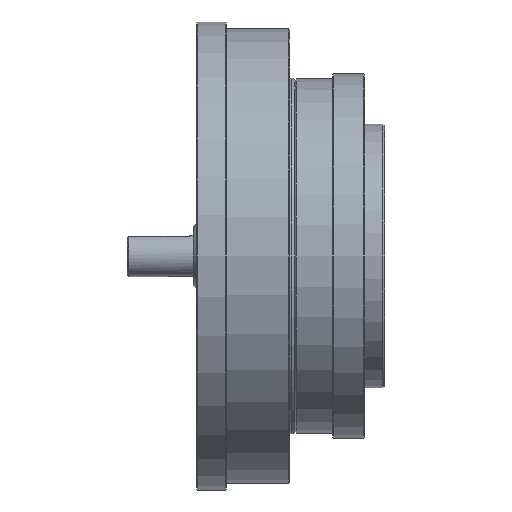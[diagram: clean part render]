
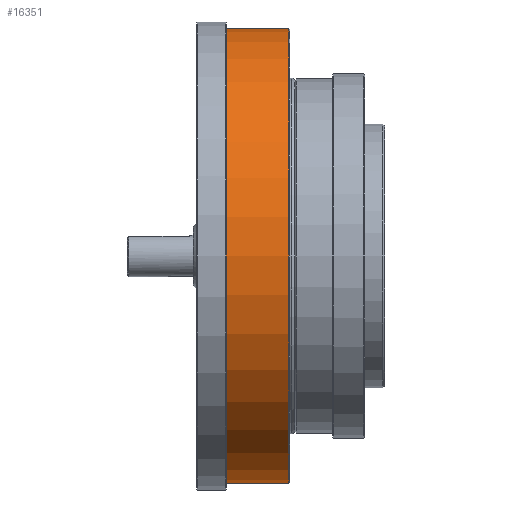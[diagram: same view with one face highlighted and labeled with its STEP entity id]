
A CAD part, front view. The second image highlights one B-rep face of the part: STEP entity #16351.
In plain terms, the highlighted cylindrical face has radius 138 mm (diameter 276 mm), a full revolution.
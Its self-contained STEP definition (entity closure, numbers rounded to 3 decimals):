
#6004 = CARTESIAN_POINT ( 'NONE',  ( -99.85, 0., 138. ) ) ;
#6114 = CIRCLE ( 'NONE', #18344, 138. ) ;
#6236 = CIRCLE ( 'NONE', #17446, 138. ) ;
#8081 = EDGE_CURVE ( 'NONE', #9152, #9152, #6236, .T. ) ;
#8906 = CYLINDRICAL_SURFACE ( 'NONE', #17930, 138. ) ;
#9152 = VERTEX_POINT ( 'NONE', #6004 ) ;
#10480 = EDGE_CURVE ( 'NONE', #21416, #21416, #6114, .T. ) ;
#13930 = CARTESIAN_POINT ( 'NONE',  ( -147., 0., 0. ) ) ;
#13986 = CARTESIAN_POINT ( 'NONE',  ( -99.85, 0., 0. ) ) ;
#14040 = DIRECTION ( 'NONE',  ( -1., 0., 0. ) ) ;
#15018 = CARTESIAN_POINT ( 'NONE',  ( -58., 0., 0. ) ) ;
#16351 = ADVANCED_FACE ( 'NONE', ( #29094, #18034 ), #8906, .T. ) ;
#16521 = DIRECTION ( 'NONE',  ( 0., 0., 1. ) ) ;
#16522 = CARTESIAN_POINT ( 'NONE',  ( -58., 0., -138. ) ) ;
#16580 = DIRECTION ( 'NONE',  ( 0., 0., 1. ) ) ;
#17446 = AXIS2_PLACEMENT_3D ( 'NONE', #13986, #31688, #16521 ) ;
#17584 = DIRECTION ( 'NONE',  ( 0., 0., -1. ) ) ;
#17930 = AXIS2_PLACEMENT_3D ( 'NONE', #13930, #14040, #16580 ) ;
#18034 = FACE_OUTER_BOUND ( 'NONE', #26810, .T. ) ;
#18344 = AXIS2_PLACEMENT_3D ( 'NONE', #15018, #32716, #17584 ) ;
#21416 = VERTEX_POINT ( 'NONE', #16522 ) ;
#25344 = ORIENTED_EDGE ( 'NONE', *, *, #10480, .T. ) ;
#26810 = EDGE_LOOP ( 'NONE', ( #28222 ) ) ;
#26953 = EDGE_LOOP ( 'NONE', ( #25344 ) ) ;
#28222 = ORIENTED_EDGE ( 'NONE', *, *, #8081, .F. ) ;
#29094 = FACE_OUTER_BOUND ( 'NONE', #26953, .T. ) ;
#31688 = DIRECTION ( 'NONE',  ( -1., 0., 0. ) ) ;
#32716 = DIRECTION ( 'NONE',  ( -1., 0., 0. ) ) ;
